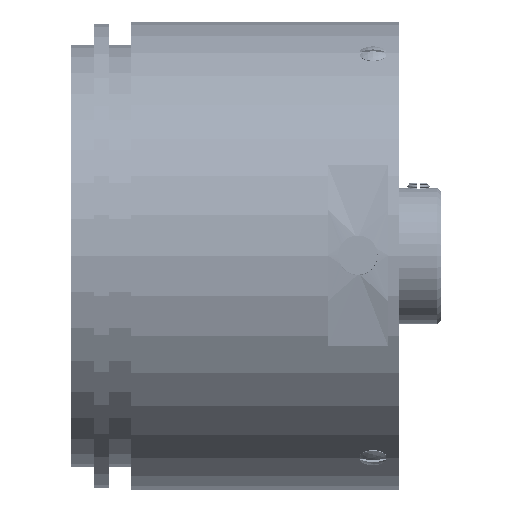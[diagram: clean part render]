
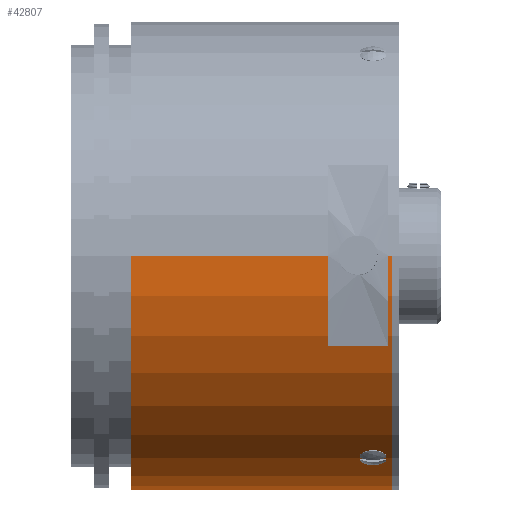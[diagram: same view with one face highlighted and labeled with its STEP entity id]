
A CAD part, top view. The second image highlights one B-rep face of the part: STEP entity #42807.
In plain terms, the highlighted cylindrical face has radius 31 mm (diameter 62 mm), a partial arc.
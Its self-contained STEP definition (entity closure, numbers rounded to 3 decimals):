
#1560 = VECTOR ( 'NONE', #40267, 1000. ) ;
#3725 = VERTEX_POINT ( 'NONE', #124029 ) ;
#6853 = CIRCLE ( 'NONE', #96410, 31. ) ;
#18064 = CARTESIAN_POINT ( 'NONE',  ( 47.017, 34.985, 41.475 ) ) ;
#20601 = CARTESIAN_POINT ( 'NONE',  ( 47.017, 34.985, 72.475 ) ) ;
#21853 = EDGE_CURVE ( 'NONE', #3725, #64753, #23575, .T. ) ;
#23575 = LINE ( 'NONE', #25753, #51254 ) ;
#24083 = CARTESIAN_POINT ( 'NONE',  ( 12.517, 34.985, 10.475 ) ) ;
#25753 = CARTESIAN_POINT ( 'NONE',  ( 47.017, 34.985, 10.475 ) ) ;
#29974 = DIRECTION ( 'NONE',  ( 0., 0., -1. ) ) ;
#37441 = EDGE_CURVE ( 'NONE', #147663, #64753, #6853, .T. ) ;
#38699 = ORIENTED_EDGE ( 'NONE', *, *, #102463, .F. ) ;
#40267 = DIRECTION ( 'NONE',  ( -1., 0., 0. ) ) ;
#42807 = ADVANCED_FACE ( 'NONE', ( #69718 ), #54927, .T. ) ;
#44267 = ORIENTED_EDGE ( 'NONE', *, *, #55088, .T. ) ;
#49503 = DIRECTION ( 'NONE',  ( -1., 0., 0. ) ) ;
#49540 = CIRCLE ( 'NONE', #59960, 31. ) ;
#51254 = VECTOR ( 'NONE', #49503, 1000. ) ;
#54927 = CYLINDRICAL_SURFACE ( 'NONE', #109352, 31. ) ;
#55088 = EDGE_CURVE ( 'NONE', #96076, #147663, #64426, .T. ) ;
#59960 = AXIS2_PLACEMENT_3D ( 'NONE', #18064, #100500, #29974 ) ;
#61212 = DIRECTION ( 'NONE',  ( 1., 0., 0. ) ) ;
#64426 = LINE ( 'NONE', #99445, #1560 ) ;
#64753 = VERTEX_POINT ( 'NONE', #24083 ) ;
#69718 = FACE_OUTER_BOUND ( 'NONE', #102759, .T. ) ;
#73579 = ORIENTED_EDGE ( 'NONE', *, *, #21853, .F. ) ;
#93272 = CARTESIAN_POINT ( 'NONE',  ( 47.017, 34.985, 41.475 ) ) ;
#96076 = VERTEX_POINT ( 'NONE', #20601 ) ;
#96410 = AXIS2_PLACEMENT_3D ( 'NONE', #131778, #61212, #143620 ) ;
#99445 = CARTESIAN_POINT ( 'NONE',  ( 47.017, 34.985, 72.475 ) ) ;
#100500 = DIRECTION ( 'NONE',  ( 1., 0., 0. ) ) ;
#102463 = EDGE_CURVE ( 'NONE', #96076, #3725, #49540, .T. ) ;
#102759 = EDGE_LOOP ( 'NONE', ( #73579, #38699, #44267, #116977 ) ) ;
#109352 = AXIS2_PLACEMENT_3D ( 'NONE', #93272, #152028, #152736 ) ;
#116977 = ORIENTED_EDGE ( 'NONE', *, *, #37441, .T. ) ;
#124029 = CARTESIAN_POINT ( 'NONE',  ( 47.017, 34.985, 10.475 ) ) ;
#131778 = CARTESIAN_POINT ( 'NONE',  ( 12.517, 34.985, 41.475 ) ) ;
#143620 = DIRECTION ( 'NONE',  ( 0., 0., -1. ) ) ;
#144529 = CARTESIAN_POINT ( 'NONE',  ( 12.517, 34.985, 72.475 ) ) ;
#147663 = VERTEX_POINT ( 'NONE', #144529 ) ;
#152028 = DIRECTION ( 'NONE',  ( -1., 0., 0. ) ) ;
#152736 = DIRECTION ( 'NONE',  ( 0., 0., 1. ) ) ;
